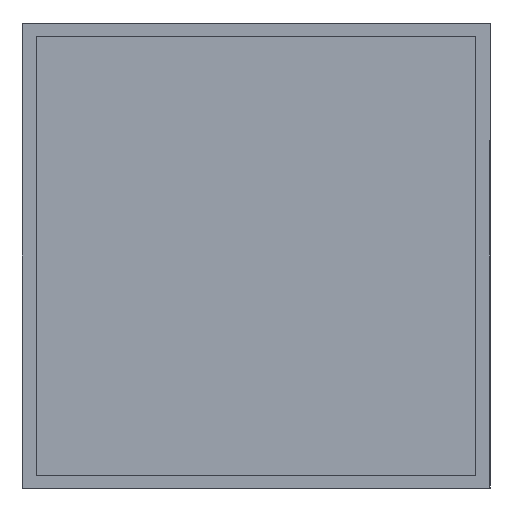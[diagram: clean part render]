
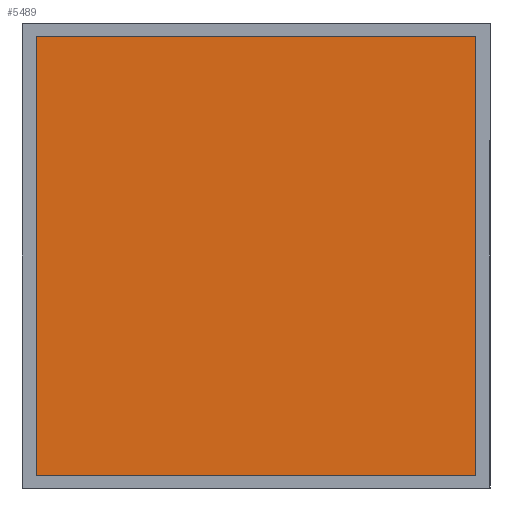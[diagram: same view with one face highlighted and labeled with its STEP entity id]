
A CAD part, front view. The second image highlights one B-rep face of the part: STEP entity #5489.
In plain terms, the highlighted planar face has unit normal (0, -1, 0).
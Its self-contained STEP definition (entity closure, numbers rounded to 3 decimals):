
#20 = LINE ( 'NONE', #2754, #2110 ) ;
#269 = DIRECTION ( 'NONE',  ( 1., 0., 0. ) ) ;
#285 = CARTESIAN_POINT ( 'NONE',  ( -31.099, -0.416, 8.342 ) ) ;
#375 = CARTESIAN_POINT ( 'NONE',  ( -31.099, -0.416, 43.342 ) ) ;
#416 = CARTESIAN_POINT ( 'NONE',  ( -66.099, -0.416, 43.342 ) ) ;
#644 = VECTOR ( 'NONE', #1979, 1000. ) ;
#1137 = EDGE_LOOP ( 'NONE', ( #2672, #1252, #6653, #5663 ) ) ;
#1252 = ORIENTED_EDGE ( 'NONE', *, *, #6669, .F. ) ;
#1966 = CARTESIAN_POINT ( 'NONE',  ( -66.099, -0.416, 43.342 ) ) ;
#1979 = DIRECTION ( 'NONE',  ( 0., 0., 1. ) ) ;
#1984 = LINE ( 'NONE', #3121, #4547 ) ;
#2022 = FACE_OUTER_BOUND ( 'NONE', #1137, .T. ) ;
#2110 = VECTOR ( 'NONE', #2213, 1000. ) ;
#2159 = VERTEX_POINT ( 'NONE', #375 ) ;
#2166 = EDGE_CURVE ( 'NONE', #7167, #2159, #1984, .T. ) ;
#2213 = DIRECTION ( 'NONE',  ( -1., 0., 0. ) ) ;
#2672 = ORIENTED_EDGE ( 'NONE', *, *, #3885, .F. ) ;
#2714 = VERTEX_POINT ( 'NONE', #6952 ) ;
#2754 = CARTESIAN_POINT ( 'NONE',  ( -66.099, -0.416, 8.342 ) ) ;
#3121 = CARTESIAN_POINT ( 'NONE',  ( -66.099, -0.416, 43.342 ) ) ;
#3200 = DIRECTION ( 'NONE',  ( 0., 0., 1. ) ) ;
#3310 = DIRECTION ( 'NONE',  ( 0., 1., 0. ) ) ;
#3885 = EDGE_CURVE ( 'NONE', #2714, #7167, #5847, .T. ) ;
#4127 = CARTESIAN_POINT ( 'NONE',  ( -31.099, -0.416, 8.342 ) ) ;
#4287 = CARTESIAN_POINT ( 'NONE',  ( -66.099, -0.416, 8.342 ) ) ;
#4301 = PLANE ( 'NONE',  #5442 ) ;
#4315 = VERTEX_POINT ( 'NONE', #4127 ) ;
#4547 = VECTOR ( 'NONE', #269, 1000. ) ;
#4690 = DIRECTION ( 'NONE',  ( 0., 0., -1. ) ) ;
#5316 = LINE ( 'NONE', #285, #6935 ) ;
#5442 = AXIS2_PLACEMENT_3D ( 'NONE', #416, #3310, #3200 ) ;
#5489 = ADVANCED_FACE ( 'NONE', ( #2022 ), #4301, .F. ) ;
#5663 = ORIENTED_EDGE ( 'NONE', *, *, #2166, .F. ) ;
#5847 = LINE ( 'NONE', #4287, #644 ) ;
#6653 = ORIENTED_EDGE ( 'NONE', *, *, #7228, .F. ) ;
#6669 = EDGE_CURVE ( 'NONE', #4315, #2714, #20, .T. ) ;
#6935 = VECTOR ( 'NONE', #4690, 1000. ) ;
#6952 = CARTESIAN_POINT ( 'NONE',  ( -66.099, -0.416, 8.342 ) ) ;
#7167 = VERTEX_POINT ( 'NONE', #1966 ) ;
#7228 = EDGE_CURVE ( 'NONE', #2159, #4315, #5316, .T. ) ;
